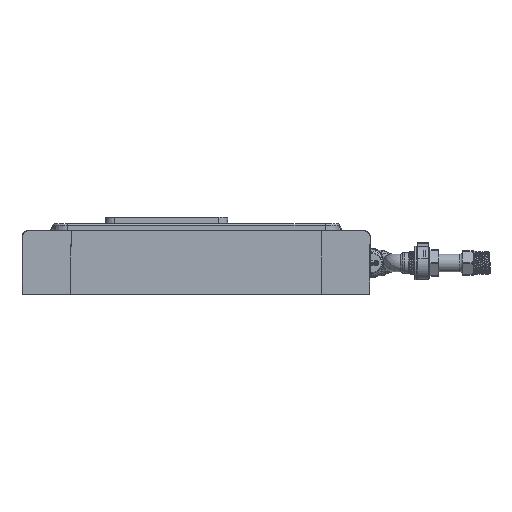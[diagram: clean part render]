
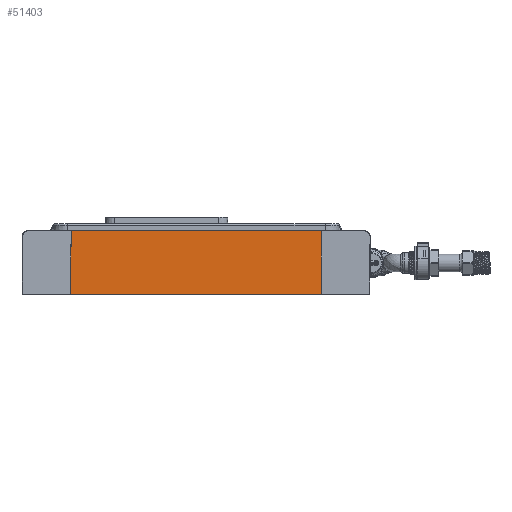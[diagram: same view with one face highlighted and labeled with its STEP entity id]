
A CAD part, top view. The second image highlights one B-rep face of the part: STEP entity #51403.
In plain terms, the highlighted planar face has unit normal (0, -0.009, 1).
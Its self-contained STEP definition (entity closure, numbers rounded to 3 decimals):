
#6167=FACE_OUTER_BOUND('',#9173,.T.);
#9173=EDGE_LOOP('',(#41602,#41603,#41604,#41605));
#12675=LINE('',#165022,#16151);
#12694=LINE('',#165450,#16170);
#12695=LINE('',#165453,#16171);
#12696=LINE('',#165454,#16172);
#16151=VECTOR('',#65972,225.945);
#16170=VECTOR('',#66075,57.004);
#16171=VECTOR('',#66078,224.95);
#16172=VECTOR('',#66079,57.004);
#22635=VERTEX_POINT('',#165001);
#22638=VERTEX_POINT('',#165020);
#22658=VERTEX_POINT('',#165448);
#22659=VERTEX_POINT('',#165452);
#29131=EDGE_CURVE('',#22638,#22635,#12675,.T.);
#29185=EDGE_CURVE('',#22658,#22638,#12694,.T.);
#29186=EDGE_CURVE('',#22659,#22658,#12695,.T.);
#29187=EDGE_CURVE('',#22635,#22659,#12696,.T.);
#41602=ORIENTED_EDGE('',*,*,#29186,.F.);
#41603=ORIENTED_EDGE('',*,*,#29187,.F.);
#41604=ORIENTED_EDGE('',*,*,#29131,.F.);
#41605=ORIENTED_EDGE('',*,*,#29185,.F.);
#46261=PLANE('',#55529);
#51403=ADVANCED_FACE('',(#6167),#46261,.T.);
#55529=AXIS2_PLACEMENT_3D('',#165451,#66076,#66077);
#65972=DIRECTION('',(-1.,0.,0.));
#66075=DIRECTION('',(0.009,-1.,-0.009));
#66076=DIRECTION('center_axis',(0.,-0.009,
1.));
#66077=DIRECTION('ref_axis',(1.,0.,0.));
#66078=DIRECTION('',(1.,0.,0.));
#66079=DIRECTION('',(0.009,1.,0.009));
#165001=CARTESIAN_POINT('',(-64.972,0.248,107.002));
#165020=CARTESIAN_POINT('',(160.972,0.248,107.002));
#165022=CARTESIAN_POINT('',(106.,0.248,107.002));
#165448=CARTESIAN_POINT('',(160.475,57.248,107.5));
#165450=CARTESIAN_POINT('',(160.975,-0.011,107.));
#165451=CARTESIAN_POINT('Origin',(164.,0.,107.));
#165452=CARTESIAN_POINT('',(-64.475,57.248,107.5));
#165453=CARTESIAN_POINT('',(106.,57.248,107.5));
#165454=CARTESIAN_POINT('',(-64.975,-0.011,107.));
